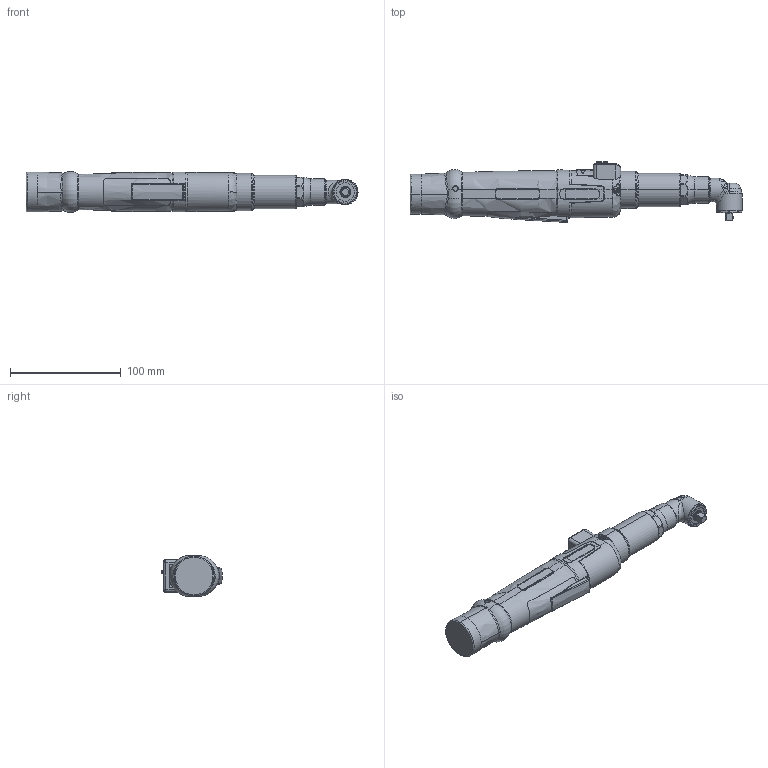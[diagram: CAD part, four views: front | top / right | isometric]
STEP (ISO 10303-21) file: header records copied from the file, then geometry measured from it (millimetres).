
FILE_DESCRIPTION (( 'STEP AP203' ), '1' );
FILE_NAME ('70141262_HSXK1015WV14.STEP', '2026-03-13T08:36:02', ( '' ), ( '' ), 'SwSTEP 2.0', 'SolidWorks 2020', '' );
FILE_SCHEMA (( 'CONFIG_CONTROL_DESIGN' ));
Products named in the file (5): 70141115; 70141200; 70141262_HSXK1015WV14; 70141212; 70141221
Assembly tree (4 placements, depth 2):
  70141262_HSXK1015WV14
    70141200
    70141212
    70141115
    70141221
Bounding box: 299.5 x 54.93 x 37 mm (x, y, z)
Volume: 293954.9 mm3; surface area: 53572.3 mm2
Topology: 5 solids, 6 shells, 1176 faces, 2983 edges, 1837 vertices
Faces by surface type: cylinder 366, bspline 322, plane 269, torus 109, cone 77, sphere 33
Entity records: 55155 total; most frequent: CARTESIAN_POINT 28959, ORIENTED_EDGE 5902, DIRECTION 4708, EDGE_CURVE 2951, AXIS2_PLACEMENT_3D 1927, VERTEX_POINT 1835, EDGE_LOOP 1228, ADVANCED_FACE 1176
